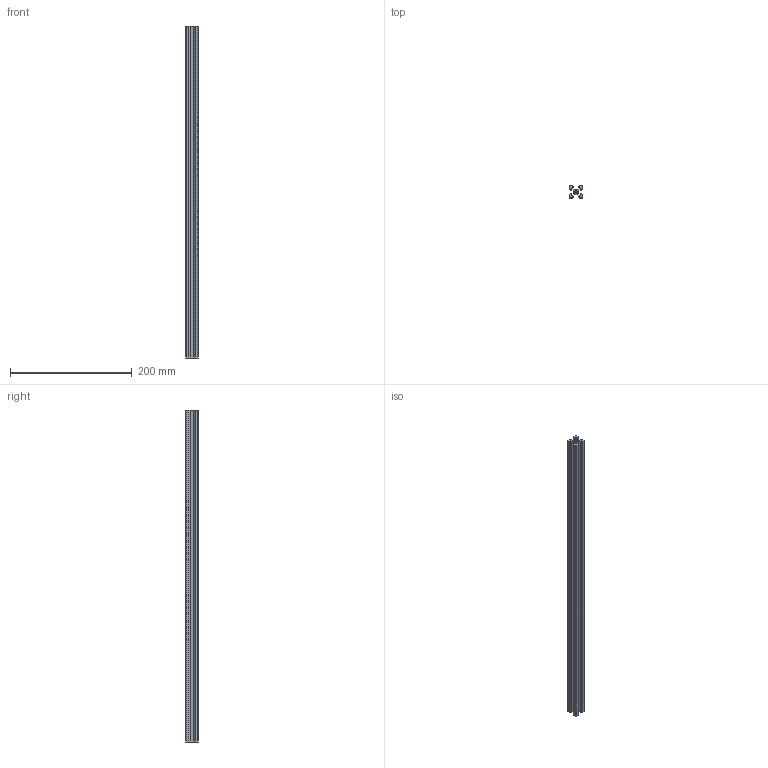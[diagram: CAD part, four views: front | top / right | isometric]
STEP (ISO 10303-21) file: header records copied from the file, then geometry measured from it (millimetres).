
FILE_DESCRIPTION(/* description */ ('STEP AP242 Edition 2','CAx-IF Rec.Pracs.---Representation and Presentation of Product Manufacturing Information (PMI)---4.0---2014-10-13','CAx-IF Rec.Pracs.---3D Tessellated Geometry---0.4---2014-09-14','2;1','CAx-IF Rec.Pracs.---User Defined Attributes---1.5---2016-08-15'),/* implementation_level */ '2;1');
FILE_NAME(/* name */ '20 X 20 mm X-Axis Rail',/* time_stamp */ '2025-11-29T19:54:06Z',/* author */ (''),/* organization */ (''),/* preprocessor_version */ 'ST-DEVELOPER v20',/* originating_system */ 'ONSHAPE BY PTC INC, 1.207',/* authorisation */ ' ');
FILE_SCHEMA (('AP242_MANAGED_MODEL_BASED_3D_ENGINEERING_MIM_LF { 1 0 10303 442 3 1 4 }'));
Length unit declared in the file: metre
Products named in the file (1): 20 X 20 mm Extrusion Sample Part v1
Bounding box: 20 x 20 x 545.5 mm (x, y, z)
Volume: 91223.8 mm3; surface area: 84156.6 mm2
Topology: 1 solids, 1 shells, 91 faces, 291 edges, 202 vertices
Faces by surface type: plane 46, cylinder 45
Full cylindrical faces by diameter (mm): 4 x1
Entity records: 3288 total; most frequent: CARTESIAN_POINT 584, ORIENTED_EDGE 580, DIRECTION 564, EDGE_CURVE 290, VERTEX_POINT 202, LINE 200, VECTOR 200, AXIS2_PLACEMENT_3D 182
